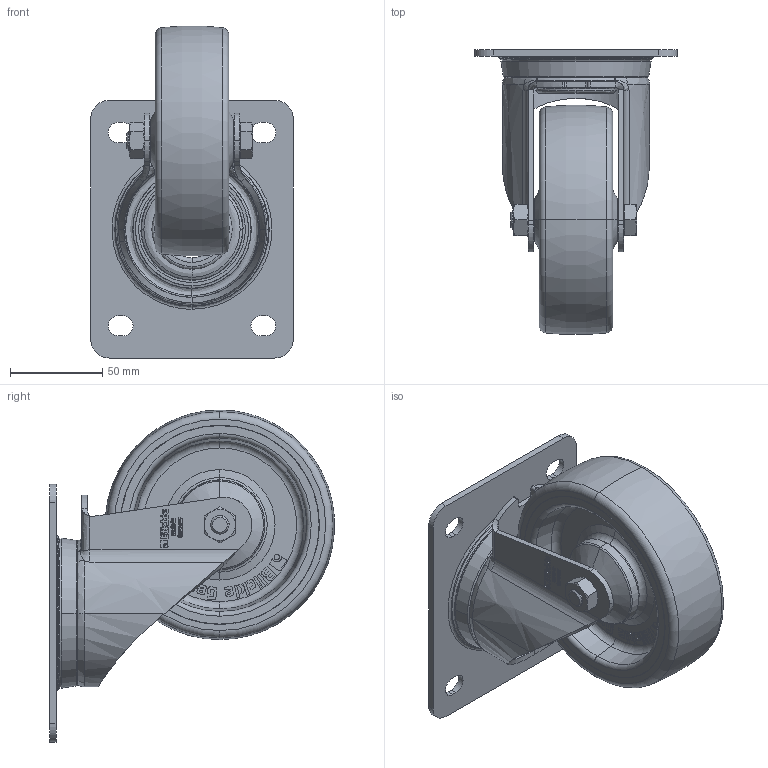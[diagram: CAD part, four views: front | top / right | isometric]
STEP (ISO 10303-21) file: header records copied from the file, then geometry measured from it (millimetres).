
FILE_DESCRIPTION (( 'STEP AP214' ), '1' );
FILE_NAME ('LK-POTH_125K-3_341461-214.step', '2022-01-11T14:09:35', ( '' ), ( '' ), 'SwSTEP 2.0', 'SolidWorks 2018', '' );
FILE_SCHEMA (( 'AUTOMOTIVE_DESIGN' ));
Length unit declared in the file: millimetre
Products named in the file (5): LK-POTH_125K-3_341461-214; POTH_125_10K_G16_3D; GH-LK_125_GH-LK-125x45-03_10x46; GH-LK-125x45-03_10x46_G16_3D; POTH_3D_G16_POTH_125_10K_558742
Assembly tree (4 placements, depth 3):
  LK-POTH_125K-3_341461-214
    GH-LK_125_GH-LK-125x45-03_10x46
      GH-LK-125x45-03_10x46_G16_3D
    POTH_3D_G16_POTH_125_10K_558742
      POTH_125_10K_G16_3D
Bounding box: 110 x 154.74 x 180.38 mm (x, y, z)
Volume: 436505.2 mm3; surface area: 136797.7 mm2
Topology: 2 solids, 6 shells, 1898 faces, 5033 edges, 3289 vertices
Faces by surface type: plane 837, bspline 790, cylinder 102, cone 101, torus 68
Entity records: 67964 total; most frequent: CARTESIAN_POINT 24881, ORIENTED_EDGE 10064, DIRECTION 6407, EDGE_CURVE 5032, VERTEX_POINT 3289, VECTOR 3015, LINE 3015, EDGE_LOOP 2063
